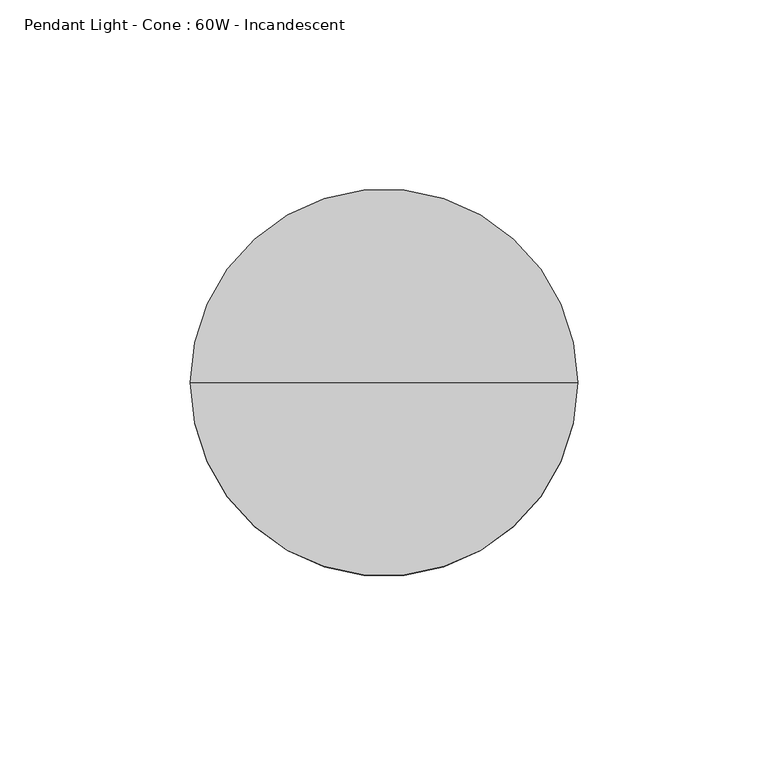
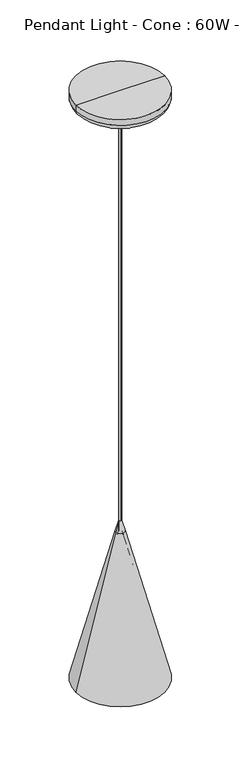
"""IFC4 building model written with IfcOpenShell, lengths in millimetres: light fixture geometry, Pendant Light - Cone : 60W - Incandescent."""

from ifc_helpers import new_model, si_unit, point, frame, origin, place, context, project, spatial, polyline, circle_curve, ellipse_curve, trimmed, source, transform, mapped, element, save
from ifc_brep_helpers import plane_surface, cylinder_surface, revolved_surface, advanced_brep


def pendant_light_cone_60w_incandescent_225a0564(model_context):
    return source(origin(), model_context, "Body", "AdvancedBrep", [
        advanced_brep(
        [(4.8667098, 0.0, 1905.0000062), (-4.8667098, 0.0, 1905.0000062), (-1.463755, 0.0, 1917.7000062), (1.463755, 0.0, 1917.7000062), (0.0, 0.0, 1905.0000062), (0.0, 0.0, 1917.7000062)],
        [
            (0, 1, circle_curve(frame((0.0, 0.0, 1905.0000062), z_axis=(0.0, 0.0, 1.0), x_axis=(-1.0, 0.0, 0.0)), 4.8667098)),
            (1, 2),
            (2, 3, circle_curve(frame((0.0, 0.0, 1917.7000062), z_axis=(0.0, 0.0, -1.0), x_axis=(-1.0, 0.0, 0.0)), 1.463755)),
            (3, 0),
            (1, 0, circle_curve(frame((0.0, 0.0, 1905.0000062), z_axis=(0.0, 0.0, 1.0), x_axis=(-1.0, 0.0, 0.0)), 4.8667098)),
            (3, 2, circle_curve(frame((0.0, 0.0, 1917.7000062), z_axis=(0.0, 0.0, -1.0), x_axis=(-1.0, 0.0, 0.0)), 1.463755)),
            (4, 1),
            (0, 4),
            (2, 5),
            (5, 3),
        ],
        [
            revolved_surface(polyline([(-1.463755, 0.0, 1917.7000062), (-4.8667098, 0.0, 1905.0000062)]), (0.0, 0.0, 1892.3000062), (0.0, 0.0, -1.0)),
            plane_surface(frame((0.0, 0.0, 1905.0000062), z_axis=(0.0, 0.0, -1.0), x_axis=(-1.0, 0.0, 0.0))),
            plane_surface(frame((0.0, 0.0, 1917.7000062), z_axis=(0.0, 0.0, 1.0), x_axis=(-1.0, 0.0, 0.0))),
        ],
        [
            (0, [[1, 2, 3, 4]]),
            (0, [[5, -4, 6, -2]]),
            (1, [[7, -1, 8]]),
            (1, [[-8, -5, -7]]),
            (2, [[-3, 9, 10]]),
            (2, [[-6, -10, -9]]),
        ],
    ),
        advanced_brep(
        [(50.8, 0.0, 2431.4175719), (-50.8, 0.0, 2431.4175719), (-50.8, 0.0, 2438.4000062), (50.8, 0.0, 2438.4000062), (45.1137557, 0.0, 2425.1023579), (-45.1137557, 0.0, 2425.1023579), (1.5875, 0.0, 2420.527564), (0.0, 1.5875, 2420.527564), (-1.5875, 0.0, 2420.527564), (0.0, -1.5875, 2420.527564), (-1.5875, 0.0, 2438.4000062), (0.0, 0.0, 2438.4000062), (1.5875, 0.0, 2438.4000062), (0.0, 1.5875, 1905.0000062), (0.0, -1.5875, 1905.0000062)],
        [
            (0, 1, circle_curve(frame((0.0, 0.0, 2431.4175719), z_axis=(0.0, 0.0, 1.0), x_axis=(-1.0, 0.0, 0.0)), 50.8)),
            (1, 2),
            (2, 3, circle_curve(frame((0.0, 0.0, 2438.4000062), z_axis=(0.0, 0.0, -1.0), x_axis=(-1.0, 0.0, 0.0)), 50.8)),
            (3, 0),
            (1, 0, circle_curve(frame((0.0, 0.0, 2431.4175719), z_axis=(0.0, 0.0, 1.0), x_axis=(-1.0, 0.0, 0.0)), 50.8)),
            (3, 2, circle_curve(frame((0.0, 0.0, 2438.4000062), z_axis=(0.0, 0.0, -1.0), x_axis=(-1.0, 0.0, 0.0)), 50.8)),
            (0, 4, circle_curve(frame((44.45, 0.0, 2431.4175719), z_axis=(0.0, 1.0, 0.0), x_axis=(-1.0, 0.0, 0.0)), 6.35)),
            (4, 5, circle_curve(frame((0.0, 0.0, 2425.1023579), z_axis=(0.0, 0.0, 1.0), x_axis=(-1.0, 0.0, 0.0)), 45.1137557)),
            (5, 1, circle_curve(frame((-44.45, 0.0, 2431.4175719), z_axis=(0.0, 1.0, 0.0), x_axis=(1.0, 0.0, 0.0)), 6.35)),
            (5, 4, circle_curve(frame((0.0, 0.0, 2425.1023579), z_axis=(0.0, 0.0, 1.0), x_axis=(-1.0, 0.0, 0.0)), 45.1137557)),
            (4, 6),
            (6, 7, circle_curve(frame((0.0, 0.0, 2420.527564), z_axis=(0.0, 0.0, 1.0), x_axis=(-1.0, 0.0, 0.0)), 1.5875)),
            (7, 8, circle_curve(frame((0.0, 0.0, 2420.527564), z_axis=(0.0, 0.0, 1.0), x_axis=(-1.0, 0.0, 0.0)), 1.5875)),
            (8, 5),
            (8, 9, circle_curve(frame((0.0, 0.0, 2420.527564), z_axis=(0.0, 0.0, 1.0), x_axis=(-1.0, 0.0, 0.0)), 1.5875)),
            (9, 6, circle_curve(frame((0.0, 0.0, 2420.527564), z_axis=(0.0, 0.0, 1.0), x_axis=(-1.0, 0.0, 0.0)), 1.5875)),
            (2, 10),
            (10, 11),
            (11, 12),
            (12, 3),
            (13, 14, circle_curve(frame((0.0, 0.0, 1905.0000062), z_axis=(0.0, 0.0, -1.0), x_axis=(0.0, -1.0, 0.0)), 1.5875)),
            (14, 13, circle_curve(frame((0.0, 0.0, 1905.0000062), z_axis=(0.0, 0.0, -1.0), x_axis=(0.0, -1.0, 0.0)), 1.5875)),
            (14, 9),
            (7, 13),
        ],
        [
            cylinder_surface(frame((0.0, 0.0, 2514.6000062), z_axis=(0.0, 0.0, -1.0), x_axis=(-1.0, 0.0, 0.0)), 50.8),
            revolved_surface(trimmed(ellipse_curve(frame((-44.45, 0.0, 2431.4175719), z_axis=(0.0, -1.0, 0.0), x_axis=(1.0, 0.0, 0.0)), 6.35, 6.35), [point((-50.8, 0.0, 2431.4175719))], [point((-45.1137557, 0.0, 2425.1023579))], True, "CARTESIAN"), (0.0, 0.0, 2514.6000062), (0.0, 0.0, -1.0)),
            revolved_surface(polyline([(-45.1137557, 0.0, 2425.1023579), (0.0, 0.0, 2420.3607111)]), (0.0, 0.0, 2514.6000062), (0.0, 0.0, -1.0)),
            plane_surface(frame((0.0, 0.0, 2438.4000062), z_axis=(0.0, 0.0, 1.0), x_axis=(-1.0, 0.0, 0.0))),
            plane_surface(frame((0.0, -1.5875, 1905.0000062), z_axis=(0.0, 0.0, -1.0), x_axis=(-1.0, 0.0, 0.0))),
            cylinder_surface(frame((0.0, 0.0, 1905.0000062), z_axis=(0.0, 0.0, 1.0), x_axis=(0.0, -1.0, 0.0)), 1.5875),
        ],
        [
            (0, [[1, 2, 3, 4]]),
            (0, [[-2, 5, -4, 6]]),
            (1, [[-1, 7, 8, 9]]),
            (1, [[-5, -9, 10, -7]]),
            (2, [[-8, 11, 12, 13, 14]]),
            (2, [[-10, -14, 15, 16, -11]]),
            (3, [[-3, 17, 18, 19, 20]]),
            (3, [[-6, -20, -19, -18, -17]]),
            (4, [[21, 22]]),
            (5, [[-22, 23, -15, -13, 24]]),
            (5, [[-21, -24, -12, -16, -23]]),
        ],
    ),
        advanced_brep(
        [(1.5875, 0.0, 1905.0000062), (-1.5875, 0.0, 1905.0000062), (-47.5140497, 0.0, 1727.2000062), (47.5140497, 0.0, 1727.2000062), (4.8667098, 0.0, 1905.0000062), (-4.8667098, 0.0, 1905.0000062), (50.7932595, 0.0, 1727.2000062), (-50.7932595, 0.0, 1727.2000062)],
        [
            (0, 1, circle_curve(frame((0.0, 0.0, 1905.0000062), z_axis=(0.0, 0.0, 1.0), x_axis=(-1.0, 0.0, 0.0)), 1.5875)),
            (1, 2),
            (2, 3, circle_curve(frame((0.0, 0.0, 1727.2000062), z_axis=(0.0, 0.0, -1.0), x_axis=(-1.0, 0.0, 0.0)), 47.5140497)),
            (3, 0),
            (1, 0, circle_curve(frame((0.0, 0.0, 1905.0000062), z_axis=(0.0, 0.0, 1.0), x_axis=(-1.0, 0.0, 0.0)), 1.5875)),
            (3, 2, circle_curve(frame((0.0, 0.0, 1727.2000062), z_axis=(0.0, 0.0, -1.0), x_axis=(-1.0, 0.0, 0.0)), 47.5140497)),
            (4, 5, circle_curve(frame((0.0, 0.0, 1905.0000062), z_axis=(0.0, 0.0, 1.0), x_axis=(-1.0, 0.0, 0.0)), 4.8667098)),
            (5, 1),
            (0, 4),
            (5, 4, circle_curve(frame((0.0, 0.0, 1905.0000062), z_axis=(0.0, 0.0, 1.0), x_axis=(-1.0, 0.0, 0.0)), 4.8667098)),
            (6, 7, circle_curve(frame((0.0, 0.0, 1727.2000062), z_axis=(0.0, 0.0, 1.0), x_axis=(-1.0, 0.0, 0.0)), 50.7932595)),
            (7, 5),
            (4, 6),
            (7, 6, circle_curve(frame((0.0, 0.0, 1727.2000062), z_axis=(0.0, 0.0, 1.0), x_axis=(-1.0, 0.0, 0.0)), 50.7932595)),
            (2, 7),
            (6, 3),
        ],
        [
            revolved_surface(polyline([(-47.5140497, 0.0, 1727.2000062), (-1.5875, 0.0, 1905.0000062)]), (0.0, 0.0, 1860.5500062), (0.0, 0.0, -1.0)),
            plane_surface(frame((0.0, 0.0, 1905.0000062), z_axis=(0.0, 0.0, 1.0), x_axis=(-1.0, 0.0, 0.0))),
            revolved_surface(polyline([(-4.8667098, 0.0, 1905.0000062), (-50.7932595, 0.0, 1727.2000062)]), (0.0, 0.0, 1860.5500062), (0.0, 0.0, -1.0)),
            plane_surface(frame((0.0, 0.0, 1727.2000062), z_axis=(0.0, 0.0, -1.0), x_axis=(-1.0, 0.0, 0.0))),
        ],
        [
            (0, [[1, 2, 3, 4]]),
            (0, [[5, -4, 6, -2]]),
            (1, [[7, 8, -1, 9]]),
            (1, [[10, -9, -5, -8]]),
            (2, [[11, 12, -7, 13]]),
            (2, [[14, -13, -10, -12]]),
            (3, [[-3, 15, -11, 16]]),
            (3, [[-6, -16, -14, -15]]),
        ],
    ),
    ])


if __name__ == "__main__":
    model = new_model("IFC4")
    model_context = context("Model", 3, world=origin())
    ifc_project = project(units=[si_unit("LENGTHUNIT", "METRE", prefix="MILLI")], contexts=[model_context])
    site = spatial("IfcSite", under=ifc_project)
    building = spatial("IfcBuilding", under=site)
    placement = place(None, origin())
    pendant_light_cone_60w_incandescent_shape = pendant_light_cone_60w_incandescent_225a0564(model_context)
    element("IfcLightFixture", 1, ObjectType="Pendant Light - Cone : 60W - Incandescent", at=placement, inside=building, context=model_context, shape_type="MappedRepresentation", body=[
        mapped(pendant_light_cone_60w_incandescent_shape, transform((0.0, 0.0, 0.0), x_axis=(1.0, 0.0, 0.0), y_axis=(0.0, 1.0, 0.0), z_axis=(0.0, 0.0, 1.0))),
    ])
    save(model, "model.ifc")
